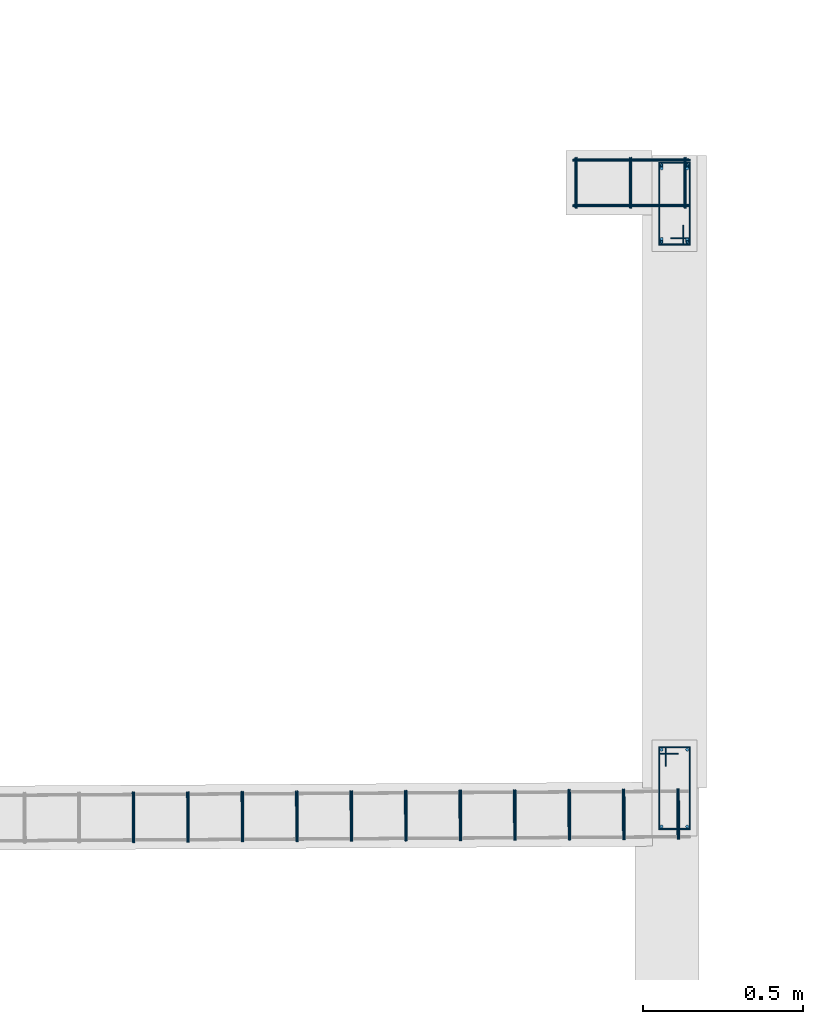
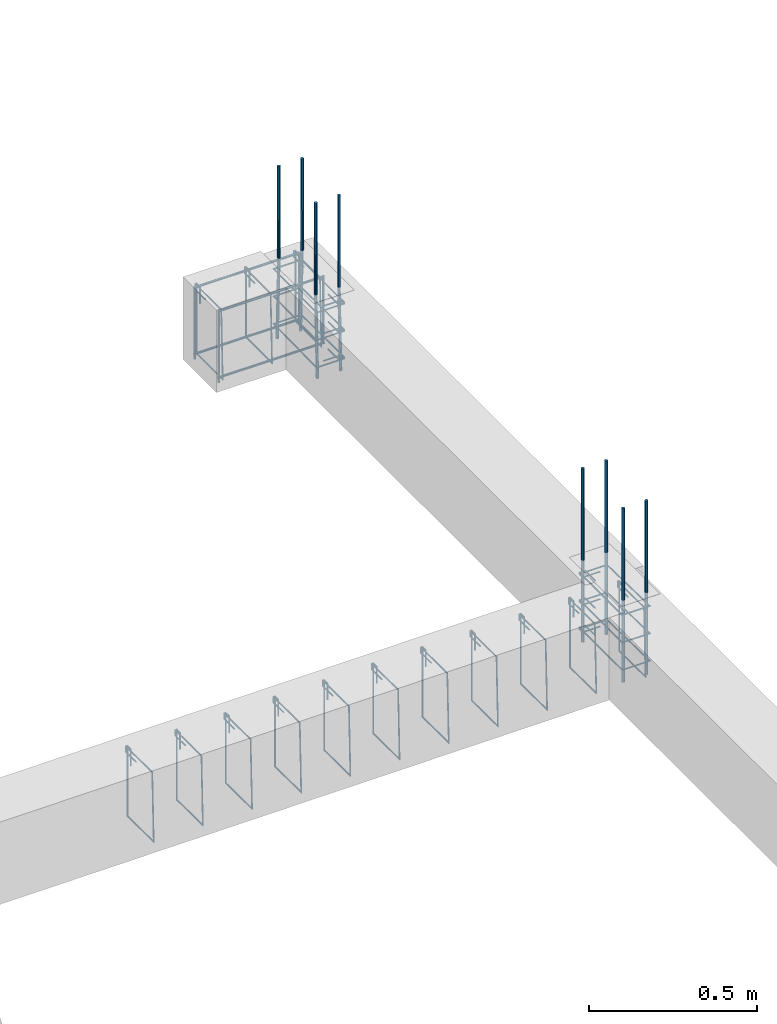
# One storey, part 36 of 150: 32 reinforcing bars.
"""IFC4 building model written with IfcOpenShell, lengths in centimetres."""

from ifc_helpers import new_model, entity, si_unit, derived_unit, frame, origin_with_axes, place, context, project, spatial, source, transform, mapped, element, save


model = new_model("IFC4")

# Units and contexts
model_context = context("Model", 3, precision=1e-05, world=origin_with_axes(), identifier="Body")
ifc_project = project(units=[si_unit("LENGTHUNIT", "METRE", prefix="CENTI"), si_unit("VOLUMEUNIT", "CUBIC_METRE"), si_unit("AREAUNIT", "SQUARE_METRE"), si_unit("POWERUNIT", "WATT"), si_unit("LUMINOUSFLUXUNIT", "LUMEN"), si_unit("ELECTRICCURRENTUNIT", "AMPERE"), si_unit("PRESSUREUNIT", "PASCAL", prefix="KILO"), si_unit("MASSUNIT", "GRAM", prefix="KILO"), si_unit("PLANEANGLEUNIT", "RADIAN"), derived_unit("VOLUMETRICFLOWRATEUNIT", [(si_unit("LENGTHUNIT", "METRE"), 3), (si_unit("TIMEUNIT", "SECOND"), -1)])], contexts=[model_context])

# Site, building, storey
site_placement = place(None, frame((-4000.0, 0.0, 0.0), z_axis=(0.0, 0.0, 1.0), x_axis=(1.0, 0.0, 0.0)))
site = spatial("IfcSite", under=ifc_project, at=site_placement, Name="PADRÃO")
building_placement = place(site_placement, frame((0.0, 0.0, -14.0)))
building = spatial("IfcBuilding", under=site, at=building_placement, Name="CRECHE PRÉ-ESCOLA TIPO 2")
placement = place(building_placement, origin_with_axes())
storey_placement = place(placement, frame((0.0, 0.0, 30.0), z_axis=(0.0, 0.0, 1.0), x_axis=(1.0, 0.0, 0.0)))
storey = spatial("IfcBuildingStorey", under=building, at=storey_placement, Name="VIGA BALDRAME", CompositionType="ELEMENT", Elevation=16.0)

# Reinforcing bars
shared_shape_1 = source(origin_with_axes(), model_context, "Body", "AdvancedSweptSolid", [
    entity("IfcSweptDiskSolid", entity("IfcCompositeCurve", [entity("IfcCompositeCurveSegment", "CONTINUOUS", True, entity("IfcPolyline", [entity("IfcCartesianPoint", [4.25, 21.75, 0.0]), entity("IfcCartesianPoint", [4.25, 27.75, 0.0])])), entity("IfcCompositeCurveSegment", "CONTINUOUS", True, entity("IfcPolyline", [entity("IfcCartesianPoint", [4.25, 27.75, 0.0]), entity("IfcCartesianPoint", [2.25, 27.75, 0.0])])), entity("IfcCompositeCurveSegment", "CONTINUOUS", True, entity("IfcPolyline", [entity("IfcCartesianPoint", [2.25, 27.75, 0.0]), entity("IfcCartesianPoint", [2.25, 2.25, 0.0])])), entity("IfcCompositeCurveSegment", "CONTINUOUS", True, entity("IfcPolyline", [entity("IfcCartesianPoint", [2.25, 2.25, 0.0]), entity("IfcCartesianPoint", [11.75, 2.25, 0.0])])), entity("IfcCompositeCurveSegment", "CONTINUOUS", True, entity("IfcPolyline", [entity("IfcCartesianPoint", [11.75, 2.25, 0.0]), entity("IfcCartesianPoint", [11.75, 27.75, -0.5])])), entity("IfcCompositeCurveSegment", "CONTINUOUS", True, entity("IfcPolyline", [entity("IfcCartesianPoint", [11.75, 27.75, -0.5]), entity("IfcCartesianPoint", [2.25, 27.75, -0.5])])), entity("IfcCompositeCurveSegment", "CONTINUOUS", True, entity("IfcPolyline", [entity("IfcCartesianPoint", [2.25, 27.75, -0.5]), entity("IfcCartesianPoint", [2.25, 25.75, -0.5])])), entity("IfcCompositeCurveSegment", "CONTINUOUS", True, entity("IfcPolyline", [entity("IfcCartesianPoint", [2.25, 25.75, -0.5]), entity("IfcCartesianPoint", [8.25, 25.75, -0.5])]))], False), 0.25),
])
for number, where, z_axis, x_axis, name in (
    (1, (1377.84, 826.1, -25.0), (0.0, 0.0, 1.0), (1.0, 0.0, 0.0), "P127 - Estribo"),
    (2, (1377.84, 826.1, -15.0), (0.0, 0.0, 1.0), (1.0, 0.0, 0.0), "P127 - Estribo"),
    (3, (1377.84, 826.1, -5.0), (0.0, 0.0, 1.0), (1.0, 0.0, 0.0), "P127 - Estribo"),
):
    element("IfcReinforcingBar", number, at=place(storey_placement, frame(where, z_axis=z_axis, x_axis=x_axis)), inside=storey, Name=name, BarLength=0.0, CrossSectionArea=1.9634954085e-05, NominalDiameter=0.5, PredefinedType="MAIN", context=model_context, shape_type="MappedRepresentation", body=[
        mapped(shared_shape_1, transform((0.0, 0.0, 0.0), scale=1.0)),
    ])
shared_shape_2 = source(origin_with_axes(), model_context, "Body", "AdvancedSweptSolid", [
    entity("IfcSweptDiskSolid", entity("IfcCompositeCurve", [entity("IfcCompositeCurveSegment", "CONTINUOUS", True, entity("IfcPolyline", [entity("IfcCartesianPoint", [4.25, 21.75, 0.0]), entity("IfcCartesianPoint", [4.25, 27.75, 0.0])])), entity("IfcCompositeCurveSegment", "CONTINUOUS", True, entity("IfcPolyline", [entity("IfcCartesianPoint", [4.25, 27.75, 0.0]), entity("IfcCartesianPoint", [2.25, 27.75, 0.0])])), entity("IfcCompositeCurveSegment", "CONTINUOUS", True, entity("IfcPolyline", [entity("IfcCartesianPoint", [2.25, 27.75, 0.0]), entity("IfcCartesianPoint", [2.25, 2.25, 0.0])])), entity("IfcCompositeCurveSegment", "CONTINUOUS", True, entity("IfcPolyline", [entity("IfcCartesianPoint", [2.25, 2.25, 0.0]), entity("IfcCartesianPoint", [11.75, 2.25, 0.0])])), entity("IfcCompositeCurveSegment", "CONTINUOUS", True, entity("IfcPolyline", [entity("IfcCartesianPoint", [11.75, 2.25, 0.0]), entity("IfcCartesianPoint", [11.75, 27.75, -0.5])])), entity("IfcCompositeCurveSegment", "CONTINUOUS", True, entity("IfcPolyline", [entity("IfcCartesianPoint", [11.75, 27.75, -0.5]), entity("IfcCartesianPoint", [2.25, 27.75, -0.5])])), entity("IfcCompositeCurveSegment", "CONTINUOUS", True, entity("IfcPolyline", [entity("IfcCartesianPoint", [2.25, 27.75, -0.5]), entity("IfcCartesianPoint", [2.25, 25.75, -0.5])])), entity("IfcCompositeCurveSegment", "CONTINUOUS", True, entity("IfcPolyline", [entity("IfcCartesianPoint", [2.25, 25.75, -0.5]), entity("IfcCartesianPoint", [8.25, 25.75, -0.5])]))], False), 0.25),
])
for number, where, z_axis, x_axis, name in (
    (4, (1391.84, 1038.51, -25.0), (0.0, 0.0, 1.0), (-1.0, 0.0, 0.0), "P120 - Estribo"),
    (5, (1391.84, 1038.51, -15.0), (0.0, 0.0, 1.0), (-1.0, 0.0, 0.0), "P120 - Estribo"),
    (6, (1391.84, 1038.51, -5.0), (0.0, 0.0, 1.0), (-1.0, 0.0, 0.0), "P120 - Estribo"),
):
    element("IfcReinforcingBar", number, at=place(storey_placement, frame(where, z_axis=z_axis, x_axis=x_axis)), inside=storey, Name=name, BarLength=0.0, CrossSectionArea=1.9634954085e-05, NominalDiameter=0.5, PredefinedType="MAIN", context=model_context, shape_type="MappedRepresentation", body=[
        mapped(shared_shape_2, transform((0.0, 0.0, 0.0), scale=1.0)),
    ])
shared_shape_3 = source(origin_with_axes(), model_context, "Body", "AdvancedSweptSolid", [
    entity("IfcSweptDiskSolid", entity("IfcCompositeCurve", [entity("IfcCompositeCurveSegment", "CONTINUOUS", True, entity("IfcPolyline", [entity("IfcCartesianPoint", [2.0, -6.0, 0.0]), entity("IfcCartesianPoint", [2.0, 0.0, 0.0])])), entity("IfcCompositeCurveSegment", "CONTINUOUS", True, entity("IfcPolyline", [entity("IfcCartesianPoint", [2.0, 0.0, 0.0]), entity("IfcCartesianPoint", [0.0, 0.0, 0.0])])), entity("IfcCompositeCurveSegment", "CONTINUOUS", True, entity("IfcPolyline", [entity("IfcCartesianPoint", [0.0, 0.0, 0.0]), entity("IfcCartesianPoint", [0.0, -25.5, 0.0])])), entity("IfcCompositeCurveSegment", "CONTINUOUS", True, entity("IfcPolyline", [entity("IfcCartesianPoint", [0.0, -25.5, 0.0]), entity("IfcCartesianPoint", [15.5, -25.5, 0.0])])), entity("IfcCompositeCurveSegment", "CONTINUOUS", True, entity("IfcPolyline", [entity("IfcCartesianPoint", [15.5, -25.5, 0.0]), entity("IfcCartesianPoint", [15.5, 0.0, 0.5])])), entity("IfcCompositeCurveSegment", "CONTINUOUS", True, entity("IfcPolyline", [entity("IfcCartesianPoint", [15.5, 0.0, 0.5]), entity("IfcCartesianPoint", [0.0, 0.0, 0.5])])), entity("IfcCompositeCurveSegment", "CONTINUOUS", True, entity("IfcPolyline", [entity("IfcCartesianPoint", [0.0, 0.0, 0.5]), entity("IfcCartesianPoint", [0.0, -2.0, 0.5])])), entity("IfcCompositeCurveSegment", "CONTINUOUS", True, entity("IfcPolyline", [entity("IfcCartesianPoint", [0.0, -2.0, 0.5]), entity("IfcCartesianPoint", [6.0, -2.0, 0.5])]))], False), 0.25),
])
for number, where, z_axis, x_axis, name in (
    (7, (1216.23523881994, 839.771477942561, -2.25), (-1.0, -0.005870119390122, 0.0), (0.005870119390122, -1.0, 0.0), "V145 - Estribo"),
    (8, (1250.23465302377, 839.971062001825, -2.25), (-1.0, -0.005870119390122, 0.0), (0.005870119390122, -1.0, 0.0), "V145 - Estribo"),
    (9, (1267.23436012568, 840.070854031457, -2.25), (-1.0, -0.005870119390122, 0.0), (0.005870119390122, -1.0, 0.0), "V145 - Estribo"),
    (10, (1284.2340672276, 840.170646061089, -2.25), (-1.0, -0.005870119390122, 0.0), (0.005870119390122, -1.0, 0.0), "V145 - Estribo"),
    (11, (1352.23289563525, 840.569814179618, -2.25), (-1.0, -0.005870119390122, 0.0), (0.005870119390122, -1.0, 0.0), "V145 - Estribo"),
    (12, (1301.23377432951, 840.270438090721, -2.25), (-1.0, -0.005870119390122, 0.0), (0.005870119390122, -1.0, 0.0), "V145 - Estribo"),
    (13, (1318.23348143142, 840.370230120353, -2.25), (-1.0, -0.005870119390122, 0.0), (0.005870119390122, -1.0, 0.0), "V145 - Estribo"),
    (14, (1233.23494592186, 839.871269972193, -2.25), (-1.0, -0.005870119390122, 0.0), (0.005870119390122, -1.0, 0.0), "V145 - Estribo"),
    (15, (1335.23318853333, 840.470022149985, -2.25), (-1.0, -0.005870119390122, 0.0), (0.005870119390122, -1.0, 0.0), "V145 - Estribo"),
    (16, (1386.23230983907, 840.769398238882, -2.25), (-1.0, -0.005870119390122, 0.0), (0.005870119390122, -1.0, 0.0), "V145 - Estribo"),
    (17, (1369.23260273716, 840.66960620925, -2.25), (-1.0, -0.005870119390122, 0.0), (0.005870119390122, -1.0, 0.0), "V145 - Estribo"),
):
    element("IfcReinforcingBar", number, at=place(storey_placement, frame(where, z_axis=z_axis, x_axis=x_axis)), inside=storey, Name=name, BarLength=0.0, CrossSectionArea=1.9634954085e-05, NominalDiameter=0.5, PredefinedType="MAIN", context=model_context, shape_type="MappedRepresentation", body=[
        mapped(shared_shape_3, transform((0.0, 0.0, 0.0), scale=1.0)),
    ])
shared_shape_4 = source(origin_with_axes(), model_context, "Body", "AdvancedSweptSolid", [
    entity("IfcSweptDiskSolid", entity("IfcCompositeCurve", [entity("IfcCompositeCurveSegment", "CONTINUOUS", True, entity("IfcPolyline", [entity("IfcCartesianPoint", [2.0, -6.0, 0.0]), entity("IfcCartesianPoint", [2.0, 0.0, 0.0])])), entity("IfcCompositeCurveSegment", "CONTINUOUS", True, entity("IfcPolyline", [entity("IfcCartesianPoint", [2.0, 0.0, 0.0]), entity("IfcCartesianPoint", [0.0, 0.0, 0.0])])), entity("IfcCompositeCurveSegment", "CONTINUOUS", True, entity("IfcPolyline", [entity("IfcCartesianPoint", [0.0, 0.0, 0.0]), entity("IfcCartesianPoint", [0.0, -25.5, 0.0])])), entity("IfcCompositeCurveSegment", "CONTINUOUS", True, entity("IfcPolyline", [entity("IfcCartesianPoint", [0.0, -25.5, 0.0]), entity("IfcCartesianPoint", [15.5, -25.5, 0.0])])), entity("IfcCompositeCurveSegment", "CONTINUOUS", True, entity("IfcPolyline", [entity("IfcCartesianPoint", [15.5, -25.5, 0.0]), entity("IfcCartesianPoint", [15.5, 0.0, 0.5])])), entity("IfcCompositeCurveSegment", "CONTINUOUS", True, entity("IfcPolyline", [entity("IfcCartesianPoint", [15.5, 0.0, 0.5]), entity("IfcCartesianPoint", [0.0, 0.0, 0.5])])), entity("IfcCompositeCurveSegment", "CONTINUOUS", True, entity("IfcPolyline", [entity("IfcCartesianPoint", [0.0, 0.0, 0.5]), entity("IfcCartesianPoint", [0.0, -2.0, 0.5])])), entity("IfcCompositeCurveSegment", "CONTINUOUS", True, entity("IfcPolyline", [entity("IfcCartesianPoint", [0.0, -2.0, 0.5]), entity("IfcCartesianPoint", [6.0, -2.0, 0.5])]))], False), 0.25),
])
for number, where, z_axis, x_axis, name in (
    (18, (1388.415, 1037.76, -2.25), (-1.0, 0.0, 0.0), (0.0, -1.0, 0.0), "V141 - Estribo"),
    (19, (1354.415, 1037.76, -2.25), (-1.0, 0.0, 0.0), (0.0, -1.0, 0.0), "V141 - Estribo"),
    (20, (1371.415, 1037.76, -2.25), (-1.0, 0.0, 0.0), (0.0, -1.0, 0.0), "V141 - Estribo"),
):
    element("IfcReinforcingBar", number, at=place(storey_placement, frame(where, z_axis=z_axis, x_axis=x_axis)), inside=storey, Name=name, BarLength=0.0, CrossSectionArea=1.9634954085e-05, NominalDiameter=0.5, PredefinedType="MAIN", context=model_context, shape_type="MappedRepresentation", body=[
        mapped(shared_shape_4, transform((0.0, 0.0, 0.0), scale=1.0)),
    ])
reinforcing_bar_1_placement = place(storey_placement, frame((1388.84, 1035.00986122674, 33.3573001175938), z_axis=(0.0, 0.0, 1.0), x_axis=(1.0, 0.0, 0.0)))
element("IfcReinforcingBar", 21, at=reinforcing_bar_1_placement, inside=storey, Name="P120 - Longitudinal", BarLength=0.0, CrossSectionArea=7.853981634e-05, NominalDiameter=1.0, PredefinedType="MAIN", context=model_context, shape_type="AdvancedSweptSolid", body=[
    entity("IfcSweptDiskSolid", entity("IfcCompositeCurve", [entity("IfcCompositeCurveSegment", "CONTINUOUS", True, entity("IfcPolyline", [entity("IfcCartesianPoint", [0.0, 0.50013877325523, -63.3573001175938]), entity("IfcCartesianPoint", [0.0, -0.49986122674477, -33.3573001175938])])), entity("IfcCompositeCurveSegment", "CONTINUOUS", True, entity("IfcPolyline", [entity("IfcCartesianPoint", [0.0, -0.49986122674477, -33.3573001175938]), entity("IfcCartesianPoint", [0.0, -0.49986122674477, 0.0])]))], False), 0.5),
])
for number, where, z_axis, x_axis, name in (
    (22, (1380.84, 1012.01013877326, 33.3573001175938), (0.0, 0.0, 1.0), (1.0, 0.0, 0.0), "P120 - Longitudinal"),
    (23, (1388.84, 1012.01013877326, 33.3573001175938), (0.0, 0.0, 1.0), (1.0, 0.0, 0.0), "P120 - Longitudinal"),
):
    element("IfcReinforcingBar", number, at=place(storey_placement, frame(where, z_axis=z_axis, x_axis=x_axis)), inside=storey, Name=name, BarLength=0.0, CrossSectionArea=7.853981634e-05, NominalDiameter=1.0, PredefinedType="MAIN", context=model_context, shape_type="AdvancedSweptSolid", body=[
        entity("IfcSweptDiskSolid", entity("IfcCompositeCurve", [entity("IfcCompositeCurveSegment", "CONTINUOUS", True, entity("IfcPolyline", [entity("IfcCartesianPoint", [0.0, -0.50013877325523, -63.3573001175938]), entity("IfcCartesianPoint", [0.0, 0.49986122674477, -33.3573001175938])])), entity("IfcCompositeCurveSegment", "CONTINUOUS", True, entity("IfcPolyline", [entity("IfcCartesianPoint", [0.0, 0.49986122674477, -33.3573001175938]), entity("IfcCartesianPoint", [0.0, 0.49986122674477, 0.0])]))], False), 0.5),
    ])
reinforcing_bar_2_placement = place(storey_placement, frame((1380.84, 1035.00986122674, 33.3573001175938), z_axis=(0.0, 0.0, 1.0), x_axis=(1.0, 0.0, 0.0)))
element("IfcReinforcingBar", 24, at=reinforcing_bar_2_placement, inside=storey, Name="P120 - Longitudinal", BarLength=0.0, CrossSectionArea=7.853981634e-05, NominalDiameter=1.0, PredefinedType="MAIN", context=model_context, shape_type="AdvancedSweptSolid", body=[
    entity("IfcSweptDiskSolid", entity("IfcCompositeCurve", [entity("IfcCompositeCurveSegment", "CONTINUOUS", True, entity("IfcPolyline", [entity("IfcCartesianPoint", [0.0, 0.50013877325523, -63.3573001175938]), entity("IfcCartesianPoint", [0.0, -0.49986122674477, -33.3573001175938])])), entity("IfcCompositeCurveSegment", "CONTINUOUS", True, entity("IfcPolyline", [entity("IfcCartesianPoint", [0.0, -0.49986122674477, -33.3573001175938]), entity("IfcCartesianPoint", [0.0, -0.49986122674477, 0.0])]))], False), 0.5),
])
for number, where, z_axis, x_axis, name in (
    (25, (1380.84, 853.1, 33.3573001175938), (0.0, 0.0, 1.0), (1.0, 0.0, 0.0), "P127 - Longitudinal"),
    (26, (1388.84, 853.1, 33.3573001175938), (0.0, 0.0, 1.0), (1.0, 0.0, 0.0), "P127 - Longitudinal"),
    (27, (1388.84, 829.1, 33.3573001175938), (0.0, 0.0, 1.0), (1.0, 0.0, 0.0), "P127 - Longitudinal"),
    (28, (1380.84, 829.1, 33.3573001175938), (0.0, 0.0, 1.0), (1.0, 0.0, 0.0), "P127 - Longitudinal"),
):
    element("IfcReinforcingBar", number, at=place(storey_placement, frame(where, z_axis=z_axis, x_axis=x_axis)), inside=storey, Name=name, BarLength=0.0, CrossSectionArea=7.853981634e-05, NominalDiameter=1.0, PredefinedType="MAIN", context=model_context, shape_type="AdvancedSweptSolid", body=[
        entity("IfcSweptDiskSolid", entity("IfcCompositeCurve", [entity("IfcCompositeCurveSegment", "CONTINUOUS", True, entity("IfcPolyline", [entity("IfcCartesianPoint", [0.0, 0.0, -63.3573001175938]), entity("IfcCartesianPoint", [0.0, 0.0, 0.0])]))], False), 0.5),
    ])
for number, where, z_axis, x_axis, name in (
    (29, (1371.415, 1022.91, -26.7), (0.0, 0.0, 1.0), (1.0, 0.0, 0.0), "V141 - Longitudinal inferior"),
    (30, (1371.415, 1037.11, -26.7), (0.0, 0.0, 1.0), (1.0, 0.0, 0.0), "V141 - Longitudinal inferior"),
):
    element("IfcReinforcingBar", number, at=place(storey_placement, frame(where, z_axis=z_axis, x_axis=x_axis)), inside=storey, Name=name, BarLength=0.0, CrossSectionArea=5.0265482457e-05, NominalDiameter=0.8, PredefinedType="MAIN", context=model_context, shape_type="AdvancedSweptSolid", body=[
        entity("IfcSweptDiskSolid", entity("IfcCompositeCurve", [entity("IfcCompositeCurveSegment", "CONTINUOUS", True, entity("IfcPolyline", [entity("IfcCartesianPoint", [-18.425, 0.0, -0.4]), entity("IfcCartesianPoint", [18.425, 0.0, -0.4])]))], False), 0.4),
    ])
for number, where, z_axis, x_axis, name in (
    (31, (1371.415, 1037.11, -2.49624973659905), (0.0, 0.0, 1.0), (1.0, 0.0, 0.0), "V141 - Longitudinal superior"),
    (32, (1371.415, 1022.91, -2.49624973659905), (0.0, 0.0, 1.0), (1.0, 0.0, 0.0), "V141 - Longitudinal superior"),
):
    element("IfcReinforcingBar", number, at=place(storey_placement, frame(where, z_axis=z_axis, x_axis=x_axis)), inside=storey, Name=name, BarLength=0.0, CrossSectionArea=5.0265482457e-05, NominalDiameter=0.8, PredefinedType="MAIN", context=model_context, shape_type="AdvancedSweptSolid", body=[
        entity("IfcSweptDiskSolid", entity("IfcCompositeCurve", [entity("IfcCompositeCurveSegment", "CONTINUOUS", True, entity("IfcPolyline", [entity("IfcCartesianPoint", [-18.025, 0.0, -26.403750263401]), entity("IfcCartesianPoint", [-18.025, 0.0, -0.403750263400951])])), entity("IfcCompositeCurveSegment", "CONTINUOUS", True, entity("IfcPolyline", [entity("IfcCartesianPoint", [-18.025, 0.0, -0.403750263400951]), entity("IfcCartesianPoint", [18.025, 0.0, -0.403750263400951])])), entity("IfcCompositeCurveSegment", "CONTINUOUS", True, entity("IfcPolyline", [entity("IfcCartesianPoint", [18.025, 0.0, -0.403750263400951]), entity("IfcCartesianPoint", [18.025, 0.0, -24.2941566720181])]))], False), 0.4),
    ])

save(model, "model.ifc")
